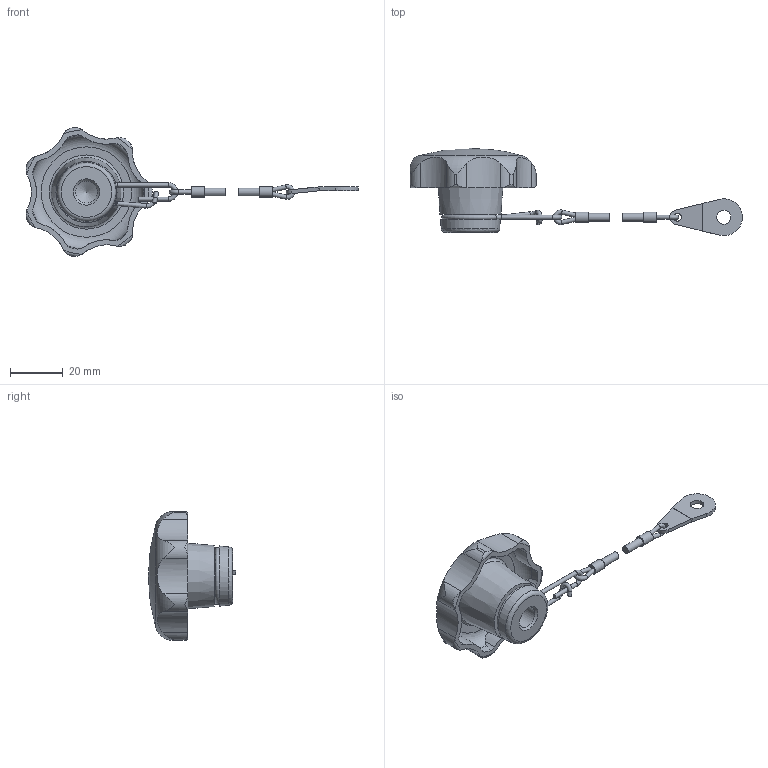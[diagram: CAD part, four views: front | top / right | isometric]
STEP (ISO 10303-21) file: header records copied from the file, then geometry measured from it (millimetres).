
FILE_DESCRIPTION( ( 'STEP AP203' ), '1' );
FILE_NAME( 'C:/Temp/Ganter_Step_05_03_2020/data/2_2/gn_6336_13/gn_6336_13_1/Star knob GN 6336.13-50-M10-H.stp', '2020-03-05T12:10:45', ( 'License CC BY-ND 4.0' ), ( 'CADENAS' ), ' ', 'PARTsolutions', ' ' );
FILE_SCHEMA( ( 'CONFIG_CONTROL_DESIGN' ) );
Length unit declared in the file: millimetre
Products named in the file (3): Star knob GN 6336.13-50-M10-H; _Star knob GN 6336.13-50-M10-H 2; _Star knob GN 111.2-200-14 h1
Assembly tree (2 placements, depth 2):
  Star knob GN 6336.13-50-M10-H
    _Star knob GN 6336.13-50-M10-H 2
    _Star knob GN 111.2-200-14 h1
Bounding box: 126.27 x 33.18 x 48.99 mm (x, y, z)
Volume: 22098.9 mm3; surface area: 9987.6 mm2
Topology: 2 solids, 2 shells, 133 faces, 363 edges, 234 vertices
Faces by surface type: cylinder 67, plane 33, torus 20, cone 12, sphere 1
Full cylindrical faces by diameter (mm): 1.6 x10, 3 x3, 4 x2, 5.3 x1, 8.376 x1, 18.5 x1
Entity records: 4844 total; most frequent: CARTESIAN_POINT 1624, DIRECTION 650, ORIENTED_EDGE 612, EDGE_CURVE 306, AXIS2_PLACEMENT_3D 280, VERTEX_POINT 222, EDGE_LOOP 184, FACE_OUTER_BOUND 163
